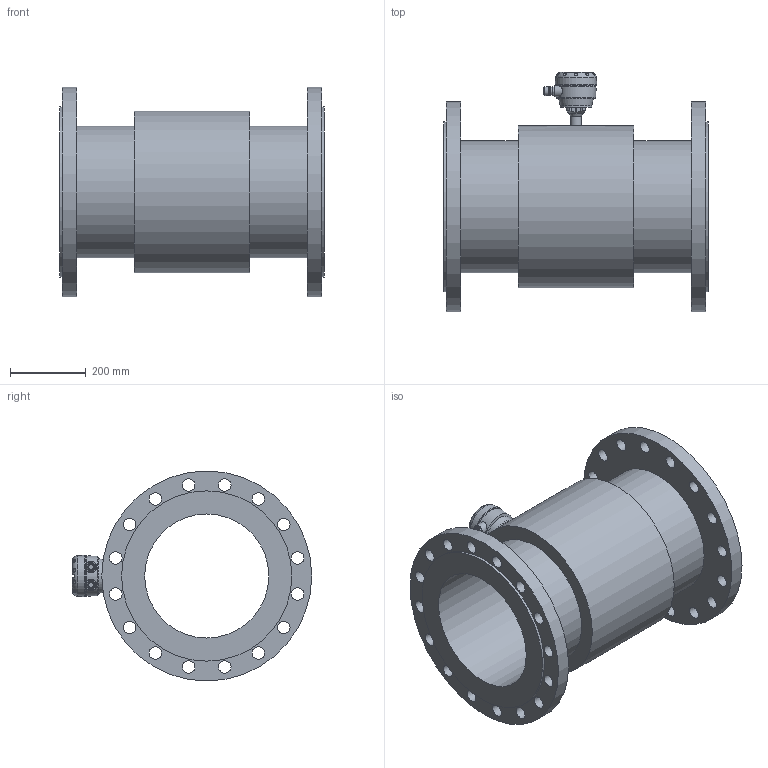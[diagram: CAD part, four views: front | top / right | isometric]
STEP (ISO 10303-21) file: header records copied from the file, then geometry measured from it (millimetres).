
FILE_DESCRIPTION (( 'STEP AP203' ), '1' );
FILE_NAME ('KROHNE_OPTIFLUX_2-4000W_DIN2634_DN350_PN25.STEP', '2011-04-26T11:25:19', ( '' ), ( '' ), 'SwSTEP 2.0', 'SolidWorks 2010', '' );
FILE_SCHEMA (( 'CONFIG_CONTROL_DESIGN' ));
Length unit declared in the file: millimetre
Products named in the file (1): KROHNE_OPTIFLUX_2-4000W_DIN2634_DN350_PN25
Bounding box: 700 x 632.99 x 555 mm (x, y, z)
Volume: 34167344 mm3; surface area: 2497911.7 mm2
Topology: 14 solids, 14 shells, 359 faces, 899 edges, 590 vertices
Faces by surface type: plane 158, cylinder 111, bspline 53, torus 18, sphere 13, cone 6
Full cylindrical faces by diameter (mm): 4 x4, 6.6 x8, 13 x2, 20 x2, 23.5 x4, 29 x1, 30 x2, 33 x32, 84 x2, 109 x1, 328 x1, 348 x2, 428 x1, 450 x2, 555 x2
Entity records: 14521 total; most frequent: CARTESIAN_POINT 6574, ORIENTED_EDGE 1522, DIRECTION 1509, EDGE_CURVE 761, AXIS2_PLACEMENT_3D 573, EDGE_LOOP 566, VERTEX_POINT 545, FACE_OUTER_BOUND 442
